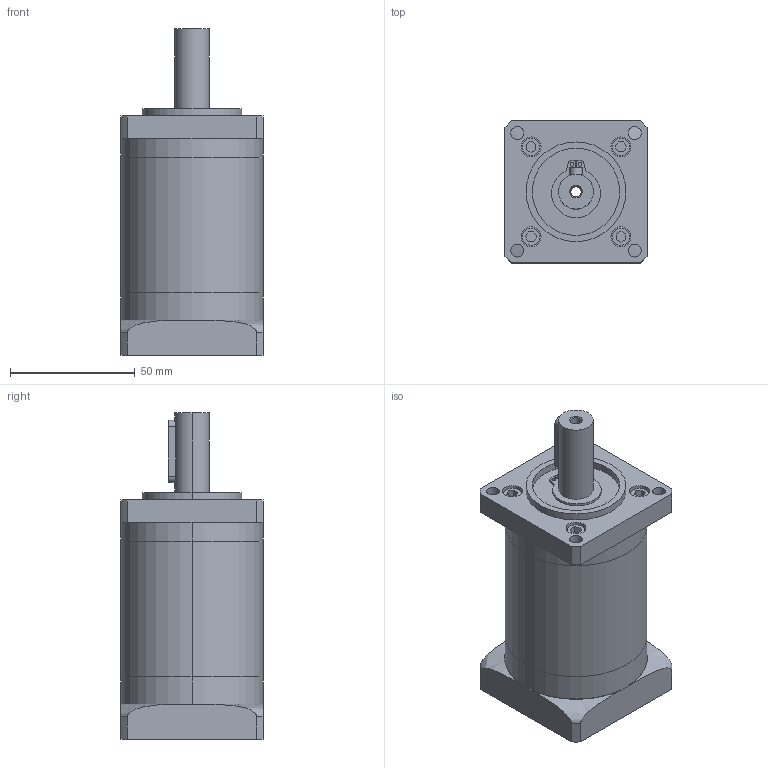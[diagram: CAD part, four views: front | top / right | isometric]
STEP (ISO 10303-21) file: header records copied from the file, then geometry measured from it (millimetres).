
FILE_DESCRIPTION (( 'STEP AP214' ), '1' );
FILE_NAME ('DLF57-L3-( )-J14-BJ-GC.step', '2020-11-17T06:01:30', ( 'Moofasta' ), ( '' ), 'SwSTEP 2.0', 'SolidWorks 2020', '' );
FILE_SCHEMA (( 'AUTOMOTIVE_DESIGN' ));
Length unit declared in the file: millimetre
Products named in the file (1): DLF57-L3-( )-J14-BJ-GC
Bounding box: 57 x 57 x 131 mm (x, y, z)
Volume: 256105.3 mm3; surface area: 50629.7 mm2
Topology: 5 solids, 5 shells, 234 faces, 551 edges, 358 vertices
Faces by surface type: plane 117, cylinder 103, cone 10, bspline 4
Entity records: 8042 total; most frequent: CARTESIAN_POINT 1939, DIRECTION 1185, ORIENTED_EDGE 1086, EDGE_CURVE 543, AXIS2_PLACEMENT_3D 432, VERTEX_POINT 358, VECTOR 321, LINE 321
